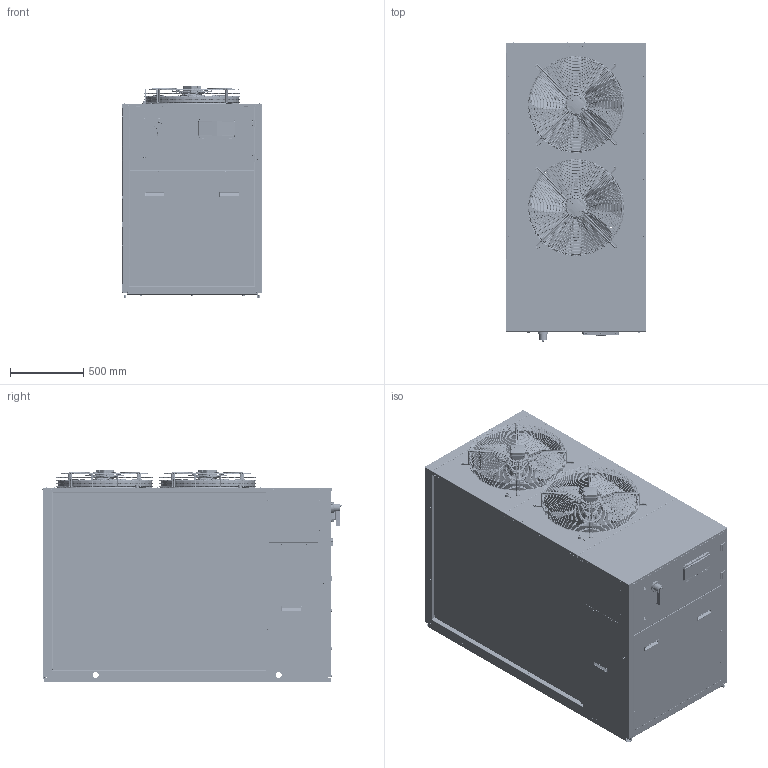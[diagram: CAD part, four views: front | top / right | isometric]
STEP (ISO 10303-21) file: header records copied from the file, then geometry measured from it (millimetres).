
FILE_DESCRIPTION (( 'STEP AP203' ), '1' );
FILE_NAME ('D4 - 2V.STEP', '2023-05-31T13:44:16', ( '' ), ( '' ), 'SwSTEP 2.0', 'SolidWorks 2013', '' );
FILE_SCHEMA (( 'CONFIG_CONTROL_DESIGN' ));
Length unit declared in the file: millimetre
Products named in the file (113): RG05903030; VM80000675; HF40000794; VM85000014_oa_5; RG05926317; VM85000014_oa_3; HF80000108; RG05903013; RG05923724; RG05926310; VM85000453_oa_4; VM85000014_oa_12; RG05922531; VR-4D-00057_000; RG05921887; HF55000024; RG05926309; VM85000453_oa_6; RG40004833; Griglia-D4-G063046-02-01; VM85000014_oa_13; HF55000021; FAN-D4-A6E630AN0101; HF80000002; 1701274; HF11000651; HF80000165_01; 92800315; RG05926371; 1700228; RG05926311; VM80000160; RG05903019; 1700846; RG05926454; 92800519; 92800444; HF54000558; RG05926753; RG05923500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
Assembly tree (501 placements, depth 5):
  D4 - 2V
    RG50021862  x2
    RG82022627  x8
    RG10020746
      HF80000107
      HF55000021  x2
      HF80000104  x2
      HF80000002  x2
    RG10026308_oa_0_1
      RG05926309
      RG05926310
      RG05926311
      RG05926312
      RG05922137  x2
      hf80000080  x10
      HF80000005  x4
      HF80000165_1  x2
        HF80000165_01
        HF80000165_02
      HF80000089  x4
      VM80000365  x8
      HF80000006  x4
      hf80000171  x2
      VM80000160  x4
      HF80000002  x12
      1700778  x2
      RG05926323  x2
      RG05926313
      92800519  x2
    HF54000571
    VM85000014_oa_1
    VM85000453_oa_2
    VM85000014_oa_3
    VM85000453_oa_4
    VM85000014_oa_5
    VM85000453_oa_6
    VM85000014_oa_7
    VM85000014_oa_8
    VM85000014_oa_9
    VM85000014_oa_10
    VM85000014_oa_11
    VM85000014_oa_12
    VM85000014_oa_13
    VM85000014_oa_14
    VM85000014_oa_15
    VM85000014_oa_16
    RG82022626  x8
    RG85015461  x4
    RG05923500
    RG05926411
    HF80000028  x2
    RG10026439
      RG10026996_1
        RG10903015_1
          RG05903013
          RG05903012  x5
          hf80000080  x44
          RG05903016  x2
        92800444  x9
        RG05926753
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Bounding box: 956.78 x 2035.39 x 1446.87 mm (x, y, z)
Volume: 114878956.6 mm3; surface area: 41894568.9 mm2
Topology: 549 solids, 10499 shells, 29240 faces, 108947 edges, 90076 vertices
Faces by surface type: plane 10716, bspline 9883, cylinder 7367, cone 994, torus 280
Entity records: 1135452 total; most frequent: CARTESIAN_POINT 733201, ORIENTED_EDGE 75479, DIRECTION 56305, EDGE_CURVE 52202, VERTEX_POINT 43965, B_SPLINE_CURVE_WITH_KNOTS 23499, AXIS2_PLACEMENT_3D 19083, VECTOR 18139
